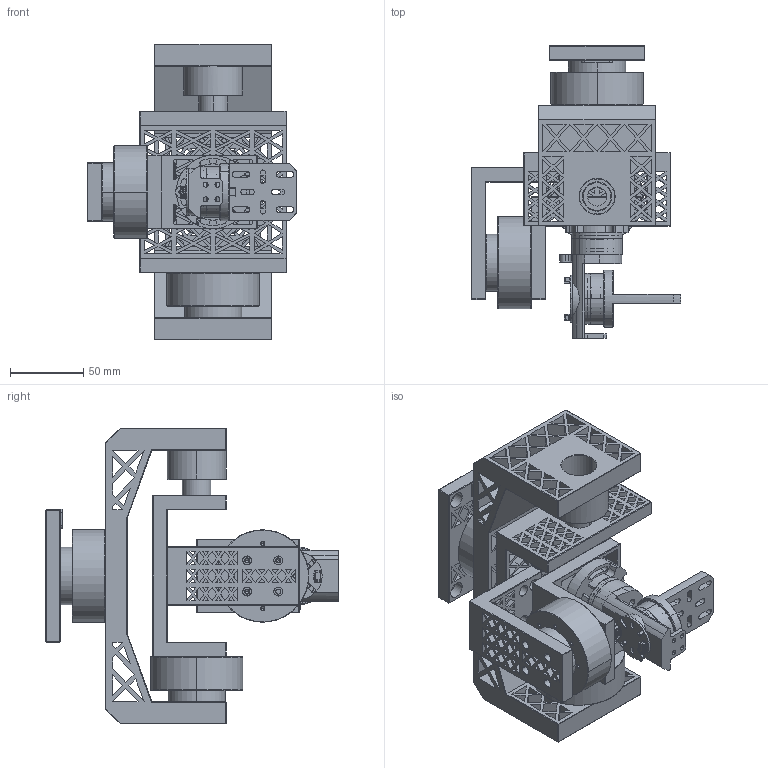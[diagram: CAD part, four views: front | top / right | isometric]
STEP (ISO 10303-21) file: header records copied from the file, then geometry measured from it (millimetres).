
FILE_DESCRIPTION (( 'STEP AP214' ), '1' );
FILE_NAME ('三轴一级增稳云台.STEP', '2026-10-21T09:11:03', ( '' ), ( '' ), 'SwSTEP 2.0', 'SolidWorks 2024', '' );
FILE_SCHEMA (( 'AUTOMOTIVE_DESIGN' ));
Length unit declared in the file: millimetre
Products named in the file (24): 2804线圈(2)_1.STEP; 转子磁铁(2)_1.STEP; 一级转台_1.STEP; 2804直流无刷总装配体-螺纹固定款_1.STEP; MZ128ZZ深沟球轴承(2)_1.STEP; 轴1固定座; GM5208-12(带AS5048A编码器); 轴1连接座; 转子轴(2)_1.STEP; 传感器; 底座_1.STEP; 直流无刷电机2804-定子(2)_1.STEP; 轴3固定座; 轴3连接座; 二维云台总装配体.STEP; 轴2连接座; 转子壳(2)_1.STEP; AS5600磁编码器-圆_1.STEP; 三轴一级增稳云台; 2804直流无刷总装配体-螺纹固定款(2)_1.STEP; 轴承; 二级转台_1.STEP; 直流无刷电机2804-径向磁铁(2)_1.STEP; 2804电机转子组件(2)_1.STEP
Assembly tree (28 placements, depth 6):
  三轴一级增稳云台
    GM5208-12(带AS5048A编码器)  x3
    二维云台总装配体.STEP
      2804直流无刷总装配体-螺纹固定款_1.STEP  x2
        2804直流无刷总装配体-螺纹固定款(2)_1.STEP
          2804电机转子组件(2)_1.STEP
            转子壳(2)_1.STEP
            转子轴(2)_1.STEP
            转子磁铁(2)_1.STEP
          直流无刷电机2804-定子(2)_1.STEP
          直流无刷电机2804-径向磁铁(2)_1.STEP
          2804线圈(2)_1.STEP
          MZ128ZZ深沟球轴承(2)_1.STEP  x2
      底座_1.STEP
      AS5600磁编码器-圆_1.STEP  x2
      一级转台_1.STEP
      二级转台_1.STEP
    轴3固定座
    轴3连接座
    轴2连接座
    轴1固定座
    轴1连接座
    轴承
    传感器
Bounding box: 142.7 x 199.38 x 201.4 mm (x, y, z)
Volume: 877872.6 mm3; surface area: 397561.1 mm2
Topology: 146 solids, 146 shells, 7239 faces, 18851 edges, 11996 vertices
Faces by surface type: plane 4594, cylinder 1197, bspline 772, cone 384, torus 180, sphere 112
Entity records: 156220 total; most frequent: CARTESIAN_POINT 36300, ORIENTED_EDGE 25120, DIRECTION 22297, EDGE_CURVE 12560, LINE 9955, VECTOR 9955, VERTEX_POINT 8116, AXIS2_PLACEMENT_3D 6171
